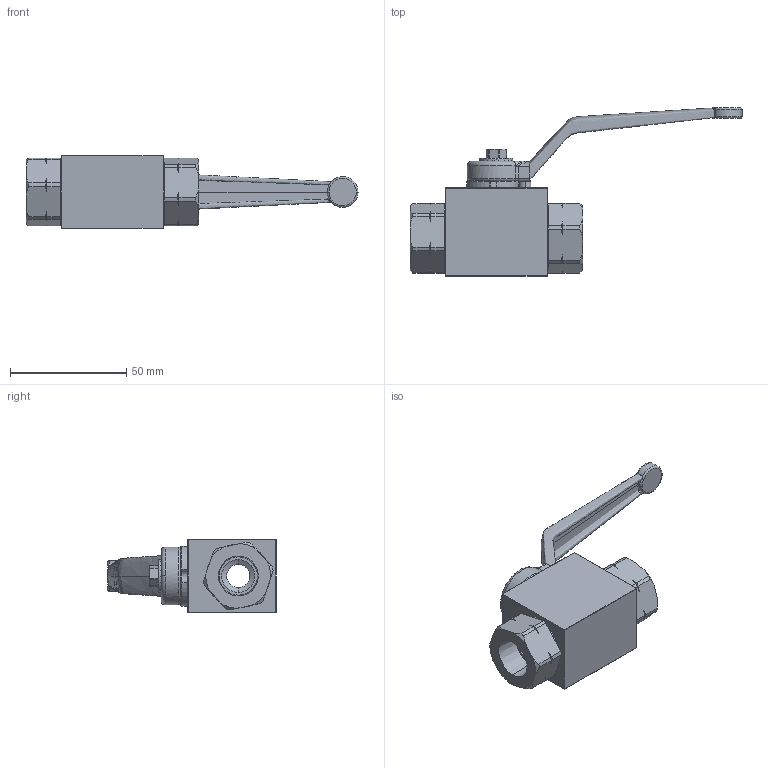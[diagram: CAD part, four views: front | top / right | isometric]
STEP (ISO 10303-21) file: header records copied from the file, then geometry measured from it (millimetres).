
FILE_DESCRIPTION (( 'STEP AP203' ), '1' );
FILE_NAME ('CFM-3-W-HANDLE.STEP', '2019-11-21T21:17:41', ( '' ), ( '' ), 'SwSTEP 2.0', 'SolidWorks 2017', '' );
FILE_SCHEMA (( 'CONFIG_CONTROL_DESIGN' ));
Length unit declared in the file: inch
Products named in the file (26): cfm-9mm-handle; cfm-3-ball; cfm_9mm_stem-stop-plate; m5-flange-cfm; cfm-3-endport; fkm-fitting-oring; cfm-3-body; cfm-3-seats; CFM-3-W-HANDLE; cfm-3-stem; cfm-3-stem-thrust-washer; fkm-stem-oring
Assembly tree (14 placements, depth 2):
  cfm-9mm-handle
  cfm-3-ball
  m5-flange-cfm
  cfm-3-endport
  fkm-fitting-oring
Bounding box: 142.7 x 72.39 x 31.25 mm (x, y, z)
Volume: 70466.3 mm3; surface area: 35655 mm2
Topology: 14 solids, 14 shells, 771 faces, 1967 edges, 1212 vertices
Faces by surface type: cylinder 272, plane 214, torus 118, cone 86, bspline 63, sphere 18
Entity records: 37629 total; most frequent: CARTESIAN_POINT 19584, ORIENTED_EDGE 3422, DIRECTION 3154, EDGE_CURVE 1711, AXIS2_PLACEMENT_3D 1251, VERTEX_POINT 1063, EDGE_LOOP 714, FACE_OUTER_BOUND 682
